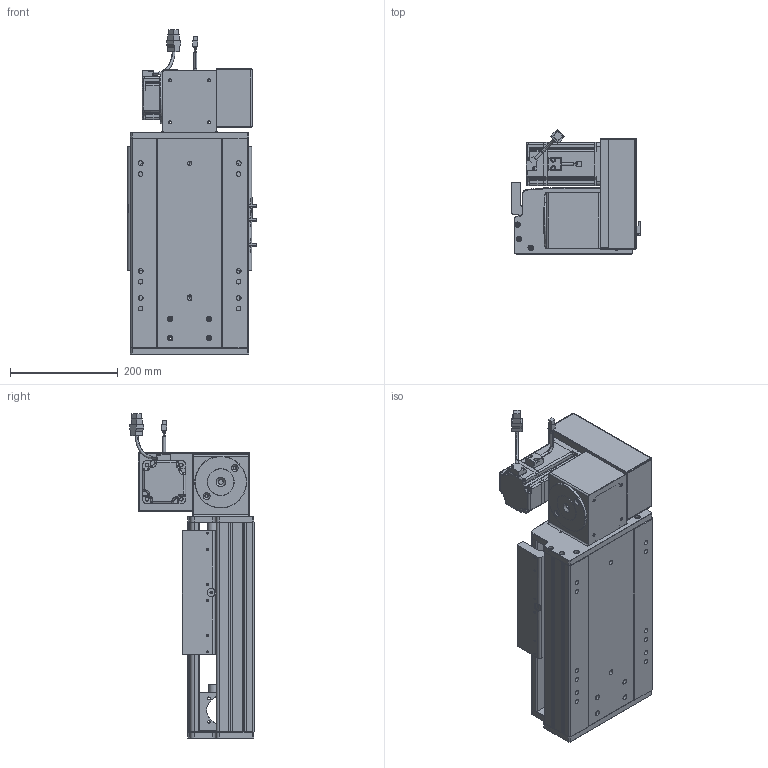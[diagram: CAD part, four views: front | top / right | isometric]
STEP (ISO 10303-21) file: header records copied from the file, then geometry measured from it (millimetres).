
FILE_DESCRIPTION (( 'STEP AP203' ), '1' );
FILE_NAME ('RY220-T-300-UR.SLDASM_50.step', '2022-07-25T08:42:10', ( '' ), ( '' ), 'SwSTEP 2.0', 'SolidWorks 2016', '' );
FILE_SCHEMA (( 'CONFIG_CONTROL_DESIGN' ));
Length unit declared in the file: millimetre
Products named in the file (14): 覜茼ん672; RY220-T-300-奻裔啣_50; RY220圉猾敕々湍臏賑輸; RY220-T-蛌殏萇儂假蚾啣(750W); 110A-T-肮祭謫釱傷裔; RY220-T-湍謫欶(鍼踢); RY220翋肮祭謫釱; RY220-T-300-UR.SLDASM_50; RY220翋肮祭謫裔啣; 怢湛750W_ECMA-CX0807ES; RY220-T菁釱-300_50; RY220-同步轮副支撑座6304×2; 滅袉蝶18-15; RY220-俋离672覜茼んえ
Assembly tree (18 placements, depth 2):
  RY220-T-300-UR.SLDASM_50
    RY220-T菁釱-300_50
    RY220翋肮祭謫釱
    覜茼ん672  x3
    RY220圉猾敕々湍臏賑輸
    RY220-T-300-奻裔啣_50
    RY220-俋离672覜茼んえ
    滅袉蝶18-15  x3
    RY220翋肮祭謫裔啣  x2
    110A-T-肮祭謫釱傷裔
    怢湛750W_ECMA-CX0807ES
    RY220-T-湍謫欶(鍼踢)
    RY220-T-蛌殏萇儂假蚾啣(750W)
    RY220-同步轮副支撑座6304×2
Bounding box: 238.7 x 231.74 x 603.27 mm (x, y, z)
Volume: 6108973 mm3; surface area: 1577060.2 mm2
Topology: 19 solids, 19 shells, 2440 faces, 6723 edges, 4302 vertices
Faces by surface type: cylinder 1104, plane 1069, cone 185, bspline 56, sphere 16, torus 10
Entity records: 81107 total; most frequent: CARTESIAN_POINT 23325, ORIENTED_EDGE 12058, DIRECTION 11228, EDGE_CURVE 6029, VERTEX_POINT 3926, AXIS2_PLACEMENT_3D 3914, VECTOR 3400, LINE 3400
